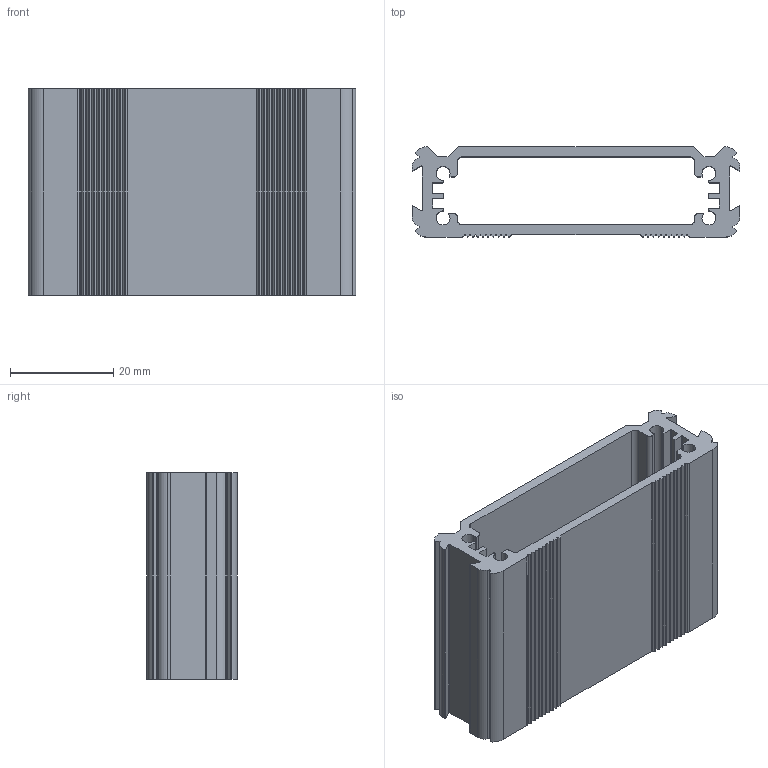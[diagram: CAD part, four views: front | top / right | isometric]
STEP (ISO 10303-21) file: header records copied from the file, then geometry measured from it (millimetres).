
FILE_DESCRIPTION (( 'STEP AP214' ), '1' );
FILE_NAME ('B1S-040 Enclosure.STEP', '2019-09-12T18:29:49', ( 'Rudy' ), ( '' ), 'SwSTEP 2.0', 'SolidWorks 2014', '' );
FILE_SCHEMA (( 'AUTOMOTIVE_DESIGN' ));
Length unit declared in the file: millimetre
Products named in the file (1): B1S-040 Enclosure
Bounding box: 63.5 x 17.55 x 40 mm (x, y, z)
Volume: 14265.5 mm3; surface area: 14512.7 mm2
Topology: 1 solids, 1 shells, 217 faces, 645 edges, 430 vertices
Faces by surface type: cylinder 121, plane 96
Entity records: 7399 total; most frequent: DIRECTION 1323, CARTESIAN_POINT 1293, ORIENTED_EDGE 1290, EDGE_CURVE 645, AXIS2_PLACEMENT_3D 460, VERTEX_POINT 430, VECTOR 403, LINE 403
